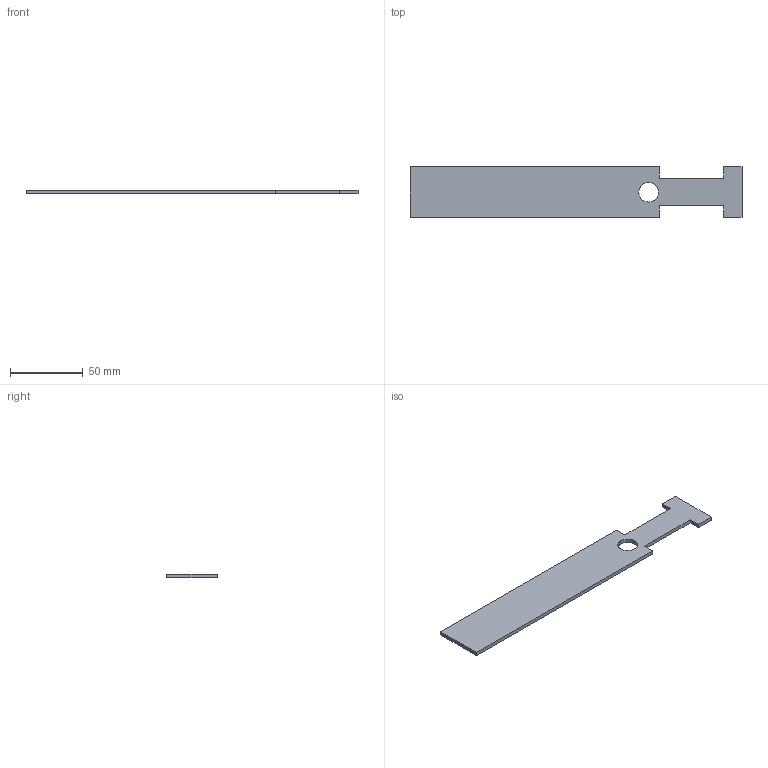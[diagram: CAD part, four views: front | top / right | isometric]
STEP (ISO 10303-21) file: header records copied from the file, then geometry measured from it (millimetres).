
FILE_DESCRIPTION(('TurboCAD Mac Pro'),'Build 980');
FILE_NAME('P1656A.stp',' ',(''),(''),'ACIS Interop','IMSI','TurboCAD Mac Pro BY IMSI, INCORPORATED');
FILE_SCHEMA(('automotive_design'));
Length unit declared in the file: inch
Products named in the file (2): 1; 2
Bounding box: 228.6 x 34.92 x 2.67 mm (x, y, z)
Volume: 19029.8 mm3; surface area: 15874 mm2
Topology: 1 solids, 1 shells, 18 faces, 48 edges, 32 vertices
Faces by surface type: plane 14, bspline 4
Entity records: 778 total; most frequent: CARTESIAN_POINT 153, ORIENTED_EDGE 96, DIRECTION 73, EDGE_CURVE 48, LINE 41, VECTOR 41, VERTEX_POINT 32, STYLED_ITEM 20
